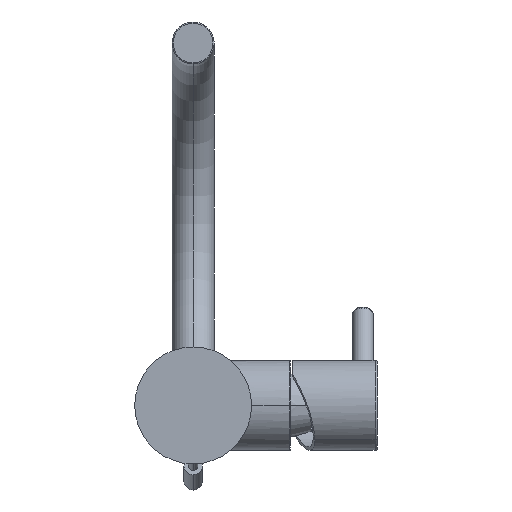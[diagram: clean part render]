
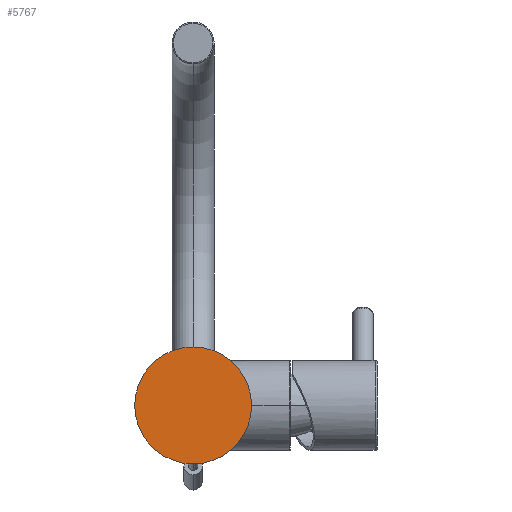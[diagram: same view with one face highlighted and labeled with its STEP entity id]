
A CAD part, front view. The second image highlights one B-rep face of the part: STEP entity #5767.
In plain terms, the highlighted planar face has unit normal (0, -1, 0).
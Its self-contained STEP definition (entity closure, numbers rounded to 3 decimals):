
#226=CARTESIAN_POINT('',(0.,-5.,0.));
#227=DIRECTION('',(0.,-1.,0.));
#228=DIRECTION('',(-1.,0.,0.));
#229=AXIS2_PLACEMENT_3D('',#226,#227,#228);
#231=CARTESIAN_POINT('',(0.,-5.,0.));
#232=DIRECTION('',(0.,1.,0.));
#233=DIRECTION('',(-1.,0.,0.));
#234=AXIS2_PLACEMENT_3D('',#231,#232,#233);
#5150=CARTESIAN_POINT('',(-25.,-5.,0.));
#5151=CARTESIAN_POINT('',(25.,-5.,0.));
#5152=VERTEX_POINT('',#5150);
#5153=VERTEX_POINT('',#5151);
#5758=CARTESIAN_POINT('',(0.,-5.,0.));
#5759=DIRECTION('',(0.,1.,0.));
#5760=DIRECTION('',(1.,0.,0.));
#5761=AXIS2_PLACEMENT_3D('',#5758,#5759,#5760);
#5762=PLANE('',#5761);
#5763=ORIENTED_EDGE('',*,*,#5725,.F.);
#5764=ORIENTED_EDGE('',*,*,#5740,.T.);
#5765=EDGE_LOOP('',(#5763,#5764));
#5766=FACE_OUTER_BOUND('',#5765,.F.);
#5767=ADVANCED_FACE('',(#5766),#5762,.F.);
#230=CIRCLE('',#229,25.);
#235=CIRCLE('',#234,25.);
#5725=EDGE_CURVE('',#5152,#5153,#230,.T.);
#5740=EDGE_CURVE('',#5152,#5153,#235,.T.);
